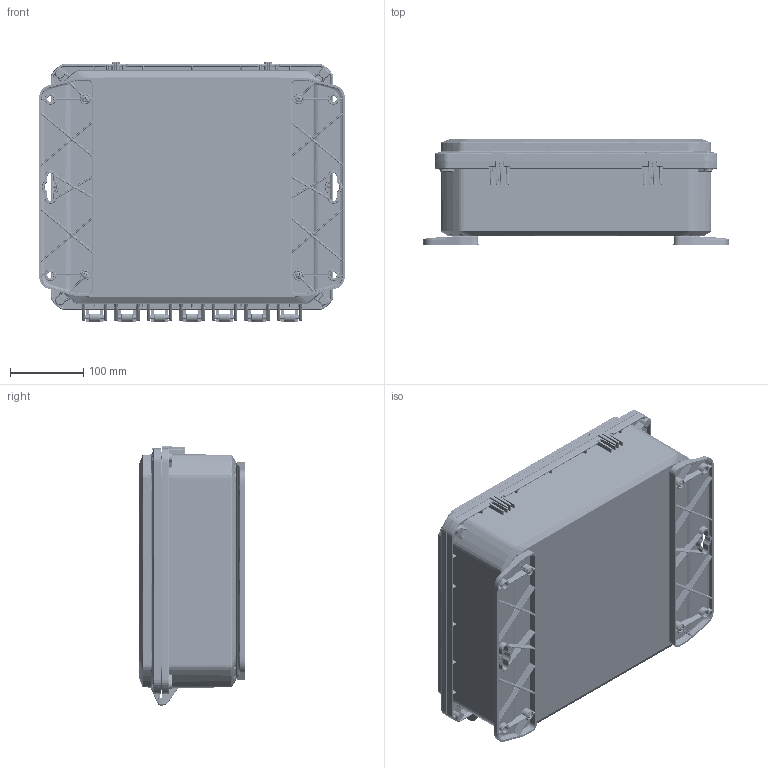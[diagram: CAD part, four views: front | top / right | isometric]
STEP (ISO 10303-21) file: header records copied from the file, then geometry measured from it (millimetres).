
FILE_DESCRIPTION (( 'STEP AP214' ), '1' );
FILE_NAME ('ZH-141204-08.STEP', '2024-10-25T19:29:08', ( '' ), ( '' ), 'SwSTEP 2.0', 'SolidWorks 2024', '' );
FILE_SCHEMA (( 'AUTOMOTIVE_DESIGN' ));
Length unit declared in the file: inch
Products named in the file (10): Z_-14124BI_ZH-14124BI-01; INSERTS-4; ZH-1412G; ZH-12F_ZH-12F-01; Z_-14124B_ZH-14124B-01; Z_-14121C_ZH-14121C-02; Z_-14121CG_ZH-14121CG-02; LABEL-104; ZH-141204-08; SCREWS-046_SCREWS-046
Assembly tree (28 placements, depth 3):
  ZH-141204-08
    Z_-14124BI_ZH-14124BI-01
      Z_-14124B_ZH-14124B-01
      INSERTS-4  x12
      LABEL-104
    Z_-14121CG_ZH-14121CG-02
      Z_-14121C_ZH-14121C-02
      ZH-1412G
    SCREWS-046_SCREWS-046  x8
    ZH-12F_ZH-12F-01  x2
Bounding box: 419.1 x 145.34 x 355.47 mm (x, y, z)
Volume: 2286745.2 mm3; surface area: 1124424.9 mm2
Topology: 26 solids, 26 shells, 9629 faces, 23611 edges, 13836 vertices
Faces by surface type: bspline 2843, cylinder 2222, plane 1800, cone 1762, torus 958, sphere 44
Entity records: 333241 total; most frequent: CARTESIAN_POINT 197068, ORIENTED_EDGE 31758, DIRECTION 24750, EDGE_CURVE 15879, AXIS2_PLACEMENT_3D 10126, VERTEX_POINT 9259, EDGE_LOOP 6954, ADVANCED_FACE 6769
